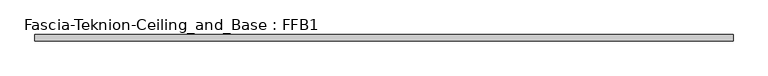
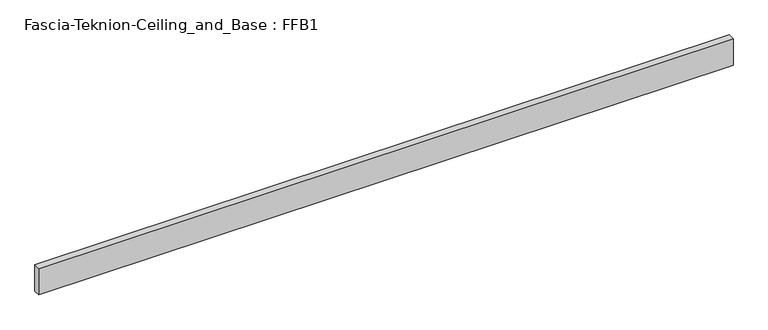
"""IFC4 building model written with IfcOpenShell, lengths in millimetres: proxy geometry, Fascia-Teknion-Ceiling_and_Base : FFB1."""

import ifcopenshell
import ifcopenshell.guid

model = None  # the IFC model being written
_history = None  # IfcOwnerHistory: only IFC2X3 demands one
_inside = {}  # id of a spatial element -> (the spatial element, [elements in it])
_under = {}  # id of a project, library or spatial element -> (it, [spatial elements below it])
_declared = {}  # id of a project -> (the project, [libraries it declares])
_typed = {}  # id of a type object -> (the type object, [elements of that type])
_made_of = {}  # id of a material, layer set ... -> (it, [elements and type objects made of it])


def new_model(schema):
    """Start an empty IFC model of exactly this schema.

    Asked for "IFC4X3", IfcOpenShell would pick the latest addendum, in which some entities
    have other attributes; the version numbers below select the first issue.
    IFC2X3 requires an IfcOwnerHistory on every rooted entity: one is made here for all.
    """
    global model, _history
    if schema == "IFC4X3":
        model = ifcopenshell.file(schema_version=(4, 3, 0, 0))
    else:
        model = ifcopenshell.file(schema=schema)
    _inside.clear()
    _under.clear()
    _declared.clear()
    _typed.clear()
    _made_of.clear()
    _history = None
    if model.schema == "IFC2X3":
        org = make("IfcOrganization", Name="unknown")
        user = make(
            "IfcPersonAndOrganization",
            ThePerson=make("IfcPerson", FamilyName="unknown"),
            TheOrganization=org,
        )
        app = make(
            "IfcApplication",
            ApplicationDeveloper=org,
            Version="unknown",
            ApplicationFullName="unknown",
            ApplicationIdentifier="unknown",
        )
        _history = make(
            "IfcOwnerHistory",
            OwningUser=user,
            OwningApplication=app,
            ChangeAction="ADDED",
            CreationDate=0,
        )
    return model


def make(cls, **values):
    """One entity of the class cls with the attributes given. An attribute that is None is left unset."""
    return model.create_entity(
        cls, **{name: value for name, value in values.items() if value is not None}
    )


def rooted(cls, **values):
    """An entity with a GlobalId (a new one), such as an element, a storey or a relation."""
    return make(cls, GlobalId=ifcopenshell.guid.new(), OwnerHistory=_history, **values)


def si_unit(unit_type, name, prefix=None):
    """IfcSIUnit, for example si_unit("LENGTHUNIT", "METRE", prefix="MILLI")."""
    return make("IfcSIUnit", UnitType=unit_type, Prefix=prefix, Name=name)


def assignment(units):
    """IfcUnitAssignment: the units of a project."""
    return None if units is None else make("IfcUnitAssignment", Units=units)


def point(xyz):
    """IfcCartesianPoint."""
    return None if xyz is None else make("IfcCartesianPoint", Coordinates=xyz)


def direction(xyz):
    """IfcDirection."""
    return None if xyz is None else make("IfcDirection", DirectionRatios=xyz)


def frame(location, z_axis=None, x_axis=None):
    """IfcAxis2Placement3D, a coordinate frame: its origin and axes. An axis left out is left unset."""
    return make(
        "IfcAxis2Placement3D",
        Location=point(location),
        Axis=direction(z_axis),
        RefDirection=direction(x_axis),
    )


def origin():
    """The frame at (0, 0, 0) with its axes left unset."""
    return frame((0.0, 0.0, 0.0))


def origin_with_axes():
    """The frame at (0, 0, 0) with the z axis (0, 0, 1) and the x axis (1, 0, 0) written out."""
    return frame((0.0, 0.0, 0.0), z_axis=(0.0, 0.0, 1.0), x_axis=(1.0, 0.0, 0.0))


def place(relative_to, where):
    """IfcLocalPlacement: puts the frame where relative to a parent placement (None: the world)."""
    return make(
        "IfcLocalPlacement", PlacementRelTo=relative_to, RelativePlacement=where
    )


def context(
    kind, dimensions, precision=None, world=None, true_north=None, identifier=None
):
    """IfcGeometricRepresentationContext, for example the 3D "Model" context."""
    return make(
        "IfcGeometricRepresentationContext",
        ContextIdentifier=identifier,
        ContextType=kind,
        CoordinateSpaceDimension=dimensions,
        Precision=precision,
        WorldCoordinateSystem=world,
        TrueNorth=true_north,
    )


def project(units=None, contexts=None):
    """IfcProject with its units and contexts."""
    return rooted(
        "IfcProject",
        Name="project",
        RepresentationContexts=contexts,
        UnitsInContext=assignment(units),
    )


def spatial(cls, under=None, at=None, **own):
    """A site, building, storey or space (cls), placed at a placement, below another one or the project."""
    s = rooted(cls, ObjectPlacement=at, **own)
    if under is not None:
        _under.setdefault(under.id(), (under, []))[1].append(s)
    return s


def polyline(points):
    """IfcPolyline through the points."""
    return make("IfcPolyline", Points=[point(p) for p in points])


def outline(outer, holes=None, kind="AREA"):
    """IfcArbitraryClosedProfileDef: a profile drawn as a closed curve; with holes, ...WithVoids."""
    if holes is None:
        return make("IfcArbitraryClosedProfileDef", ProfileType=kind, OuterCurve=outer)
    return make(
        "IfcArbitraryProfileDefWithVoids",
        ProfileType=kind,
        OuterCurve=outer,
        InnerCurves=holes,
    )


def extrude(swept, where, along, depth):
    """IfcExtrudedAreaSolid: the profile swept, set in the frame where, extruded along a direction by depth."""
    return make(
        "IfcExtrudedAreaSolid",
        SweptArea=swept,
        Position=where,
        ExtrudedDirection=direction(along),
        Depth=depth,
    )


def shape(context_of_items, identifier, shape_type, items):
    """IfcShapeRepresentation: the items that make up one representation, for example the "Body"."""
    return make(
        "IfcShapeRepresentation",
        ContextOfItems=context_of_items,
        RepresentationIdentifier=identifier,
        RepresentationType=shape_type,
        Items=items,
    )


def source(mapping_origin, context_of_items, identifier, shape_type, items):
    """IfcRepresentationMap: a shape defined once, which mapped items show again and again."""
    return make(
        "IfcRepresentationMap",
        MappingOrigin=mapping_origin,
        MappedRepresentation=shape(context_of_items, identifier, shape_type, items),
    )


def transform(
    local_origin,
    x_axis=None,
    y_axis=None,
    z_axis=None,
    scale=None,
    scale2=None,
    scale3=None,
    uniform=True,
):
    """IfcCartesianTransformationOperator3D, or its non-uniform kind. x_axis, y_axis, z_axis: its Axis1, 2, 3."""
    if uniform:
        return make(
            "IfcCartesianTransformationOperator3D",
            Axis1=direction(x_axis),
            Axis2=direction(y_axis),
            LocalOrigin=point(local_origin),
            Scale=scale,
            Axis3=direction(z_axis),
        )
    return make(
        "IfcCartesianTransformationOperator3DnonUniform",
        Axis1=direction(x_axis),
        Axis2=direction(y_axis),
        LocalOrigin=point(local_origin),
        Scale=scale,
        Axis3=direction(z_axis),
        Scale2=scale2,
        Scale3=scale3,
    )


def mapped(mapping_source, mapping_target):
    """IfcMappedItem: shows the shape of a source again, moved by a transform."""
    return make(
        "IfcMappedItem", MappingSource=mapping_source, MappingTarget=mapping_target
    )


def made_of(thing, what):
    """Note that an element or type object is made of a material, layer set ...; save() writes the relation."""
    if what is not None:
        _made_of.setdefault(what.id(), (what, []))[1].append(thing)
    return thing


def element(
    cls,
    number,
    at=None,
    inside=None,
    cuts=None,
    type_object=None,
    material=None,
    context=None,
    identifier="Body",
    shape_type=None,
    held_by="IfcProductDefinitionShape",
    body=None,
    shapes=None,
    **own,
):
    """One element of the class cls, such as IfcWall. Its Tag is "e" and its number.

    at: its placement. inside: the storey or other place that contains it. cuts: it is an
    opening in that element (IfcRelVoidsElement). A single representation is given by context,
    identifier, shape_type and body (its items); several are given by shapes. held_by: the class
    of the entity that holds the representations. save() writes the other relations.
    """
    e = rooted(cls, Tag="e%d" % number, ObjectPlacement=at, **own)
    if body is not None:
        shapes = [shape(context, identifier, shape_type, body)]
    if shapes is not None:
        e.Representation = make(held_by, Representations=shapes)
    if inside is not None:
        _inside.setdefault(inside.id(), (inside, []))[1].append(e)
    if cuts is not None:
        rooted(
            "IfcRelVoidsElement", RelatingBuildingElement=cuts, RelatedOpeningElement=e
        )
    if type_object is not None:
        _typed.setdefault(type_object.id(), (type_object, []))[1].append(e)
    return made_of(e, material)


def aggregate(whole, parts):
    """IfcRelAggregates: a whole, such as a stair, and the parts it consists of."""
    return rooted("IfcRelAggregates", RelatingObject=whole, RelatedObjects=parts)


def save(model, path):
    """Write the relations noted so far, then the file.

    IfcRelAggregates (storeys below a building ...), IfcRelContainedInSpatialStructure (elements
    in a storey), IfcRelDefinesByType, IfcRelAssociatesMaterial and IfcRelDeclares: one each for
    every whole, place, type object, material and project.
    """
    for whole, parts in _under.values():
        aggregate(whole, parts)
    for where, things in _inside.values():
        rooted(
            "IfcRelContainedInSpatialStructure",
            RelatedElements=things,
            RelatingStructure=where,
        )
    for kind, things in _typed.values():
        rooted("IfcRelDefinesByType", RelatedObjects=things, RelatingType=kind)
    for what, things in _made_of.values():
        rooted("IfcRelAssociatesMaterial", RelatedObjects=things, RelatingMaterial=what)
    for by, libraries in _declared.values():
        rooted("IfcRelDeclares", RelatingContext=by, RelatedDefinitions=libraries)
    model.write(path)


def fascia_teknion_ceiling_and_base_ffb1_57c76872(model_context):
    return source(origin(), model_context, "Body", "SweptSolid", [
        extrude(outline(polyline([(1012.8305563, 0.0), (-1012.8305562, 0.0), (-1012.8305562, 19.05), (1012.8305563, 19.05), (1012.8305563, 0.0)])), origin_with_axes(), (0.0, 0.0, 1.0), 81.28),
    ])


if __name__ == "__main__":
    model = new_model("IFC4")
    model_context = context("Model", 3, world=origin())
    ifc_project = project(units=[si_unit("LENGTHUNIT", "METRE", prefix="MILLI")], contexts=[model_context])
    site = spatial("IfcSite", under=ifc_project)
    building = spatial("IfcBuilding", under=site)
    placement = place(None, origin())
    fascia_teknion_ceiling_and_base_ffb1_shape = fascia_teknion_ceiling_and_base_ffb1_57c76872(model_context)
    element("IfcBuildingElementProxy", 1, Name="Fascia-Teknion-Ceiling_and_Base : FFB1", ObjectType="Fascia-Teknion-Ceiling_and_Base : FFB1", at=placement, inside=building, context=model_context, shape_type="MappedRepresentation", body=[
        mapped(fascia_teknion_ceiling_and_base_ffb1_shape, transform((0.0, 0.0, 0.0), x_axis=(1.0, 0.0, 0.0), y_axis=(0.0, 1.0, 0.0), z_axis=(0.0, 0.0, 1.0))),
    ])
    save(model, "model.ifc")
